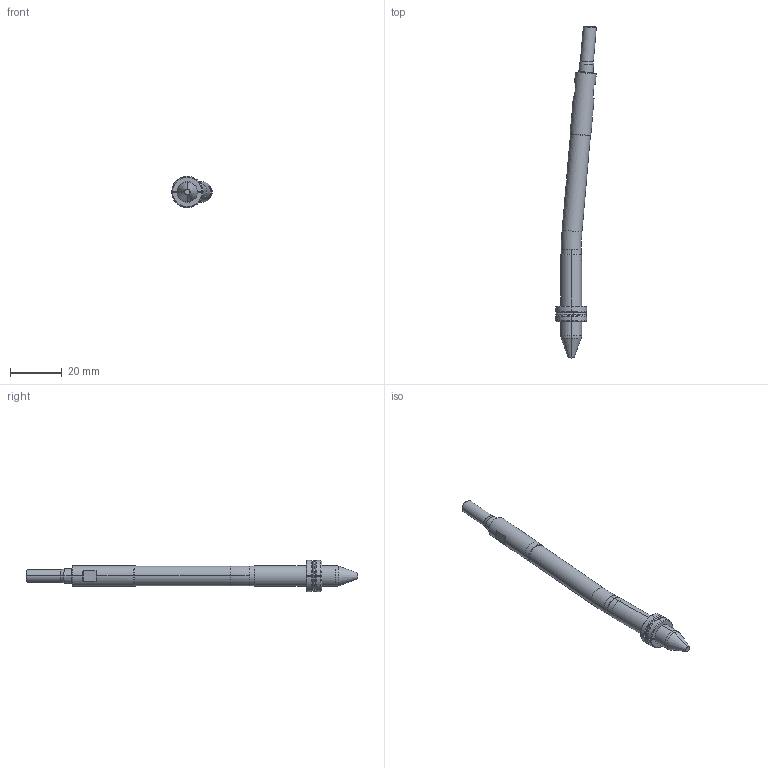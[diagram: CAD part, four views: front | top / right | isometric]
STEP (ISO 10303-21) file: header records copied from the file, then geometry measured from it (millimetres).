
FILE_DESCRIPTION (( 'STEP AP214' ), '1' );
FILE_NAME ('WP080030-EJE 5°.STEP', '2021-03-19T15:18:54', ( '' ), ( '' ), 'SwSTEP 2.0', 'SolidWorks 2019', '' );
FILE_SCHEMA (( 'AUTOMOTIVE_DESIGN' ));
Length unit declared in the file: millimetre
Products named in the file (6): Web-WP08-F_WP08-F-ON 5ø; WP080030-EJE 5°; Web-WP08-6; Web-WP08-7; Web-WP08-2; Web-WP08-1
Assembly tree (5 placements, depth 2):
  WP080030-EJE 5°
    Web-WP08-1
    Web-WP08-F_WP08-F-ON 5ø
    Web-WP08-2
    Web-WP08-6
    Web-WP08-7
Bounding box: 15.66 x 127.88 x 12 mm (x, y, z)
Volume: 5841.3 mm3; surface area: 4095.3 mm2
Topology: 6 solids, 6 shells, 121 faces, 280 edges, 174 vertices
Faces by surface type: cylinder 36, plane 29, cone 28, torus 28
Entity records: 3977 total; most frequent: CARTESIAN_POINT 767, DIRECTION 652, ORIENTED_EDGE 560, AXIS2_PLACEMENT_3D 283, EDGE_CURVE 280, VERTEX_POINT 174, CIRCLE 154, EDGE_LOOP 126
